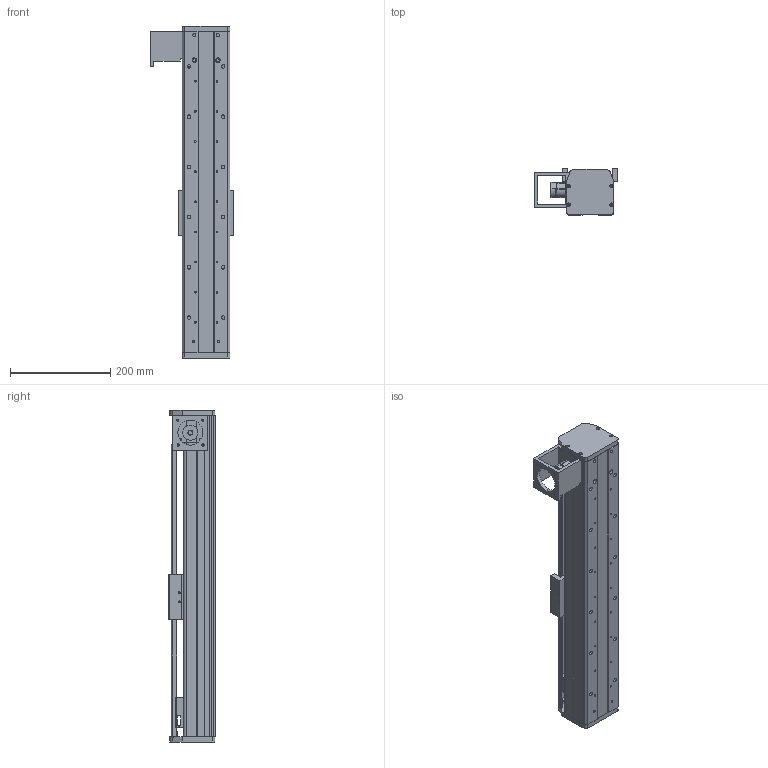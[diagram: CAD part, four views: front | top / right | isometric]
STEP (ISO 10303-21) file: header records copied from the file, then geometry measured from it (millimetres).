
FILE_DESCRIPTION (( 'STEP AP214' ), '1' );
FILE_NAME ('CF95-2-D-FWL.STEP', '2016-07-18T05:29:36', ( 'Sky123.Org' ), ( 'Sky123.Org' ), 'SwSTEP 2.0', 'SolidWorks 2015', '' );
FILE_SCHEMA (( 'AUTOMOTIVE_DESIGN' ));
Length unit declared in the file: millimetre
Products named in the file (21): 95-2同步带从动端侧板; 同步带从动端侧板盖板支撑条; 5M-Z15-25-囀噤12; 翋雄粣; 95裔啣-1240; 薊粣ん杶; 植雄釱; 翋雄釱; CF95-2-1241臏倰第; HGR15-俴最1000-絳寢; hGH15CA賑輸; 95-2同步带滑动板(永昌专用); 30-42薊粣ん; CF95-2-D-FWL; 肮祭湍揤啣; 翋雄粣杶; deep groove ball bearings gb_Rolling bearings 6001 GB 276-94; 植雄粣杶; 植雄粣; deep groove ball bearings gb_Rolling bearings 6000 GB 276-94; 95-2耜啣
Assembly tree (25 placements, depth 2):
  CF95-2-D-FWL
    hGH15CA賑輸  x2
    HGR15-俴最1000-絳寢  x2
    CF95-2-1241臏倰第
    翋雄釱
    植雄釱
    薊粣ん杶
    95裔啣-1240
    翋雄粣
    5M-Z15-25-囀噤12  x2
    同步带从动端侧板盖板支撑条
    95-2同步带从动端侧板
    95-2耜啣
    deep groove ball bearings gb_Rolling bearings 6000 GB 276-94  x2
    植雄粣
    植雄粣杶
    deep groove ball bearings gb_Rolling bearings 6001 GB 276-94  x2
    翋雄粣杶
    肮祭湍揤啣
    30-42薊粣ん
    95-2同步带滑动板(永昌专用)
Bounding box: 166.2 x 92.5 x 661 mm (x, y, z)
Volume: 2357089.7 mm3; surface area: 788933.1 mm2
Topology: 30 solids, 30 shells, 1723 faces, 5504 edges, 3670 vertices
Faces by surface type: plane 689, cylinder 624, torus 206, sphere 108, bspline 92, cone 4
Entity records: 55206 total; most frequent: CARTESIAN_POINT 16993, ORIENTED_EDGE 7814, DIRECTION 7297, EDGE_CURVE 3907, AXIS2_PLACEMENT_3D 2702, VERTEX_POINT 2596, LINE 1893, VECTOR 1893
